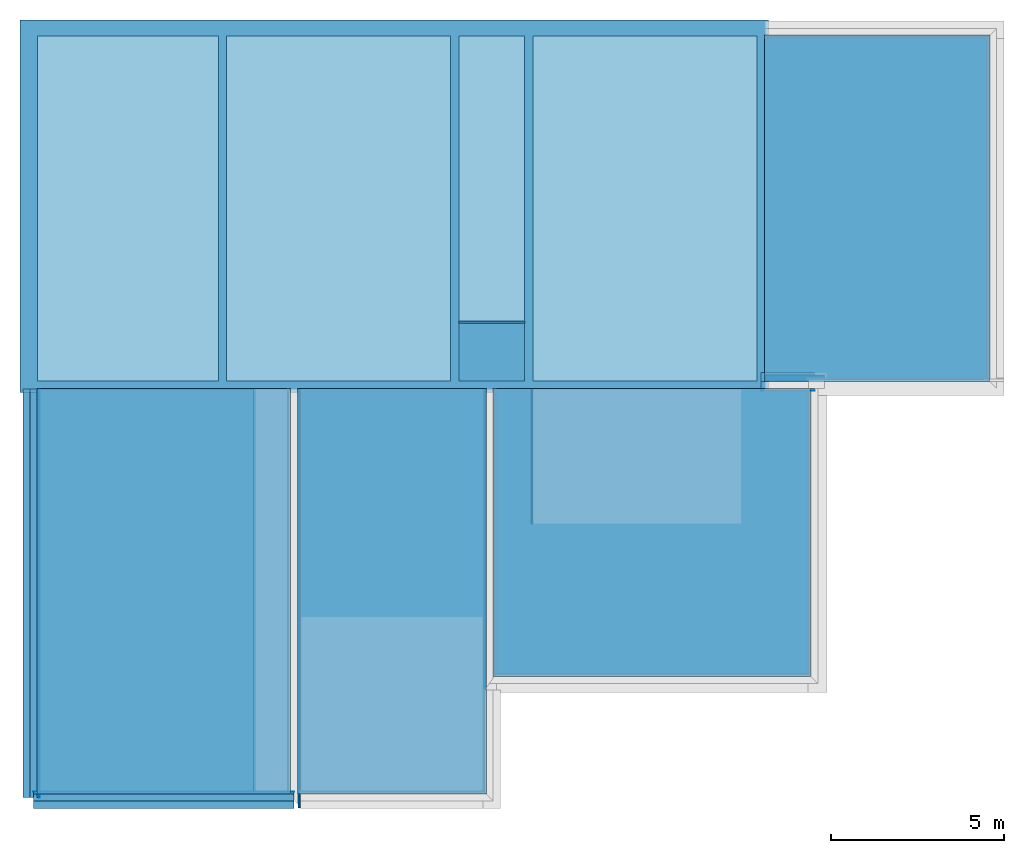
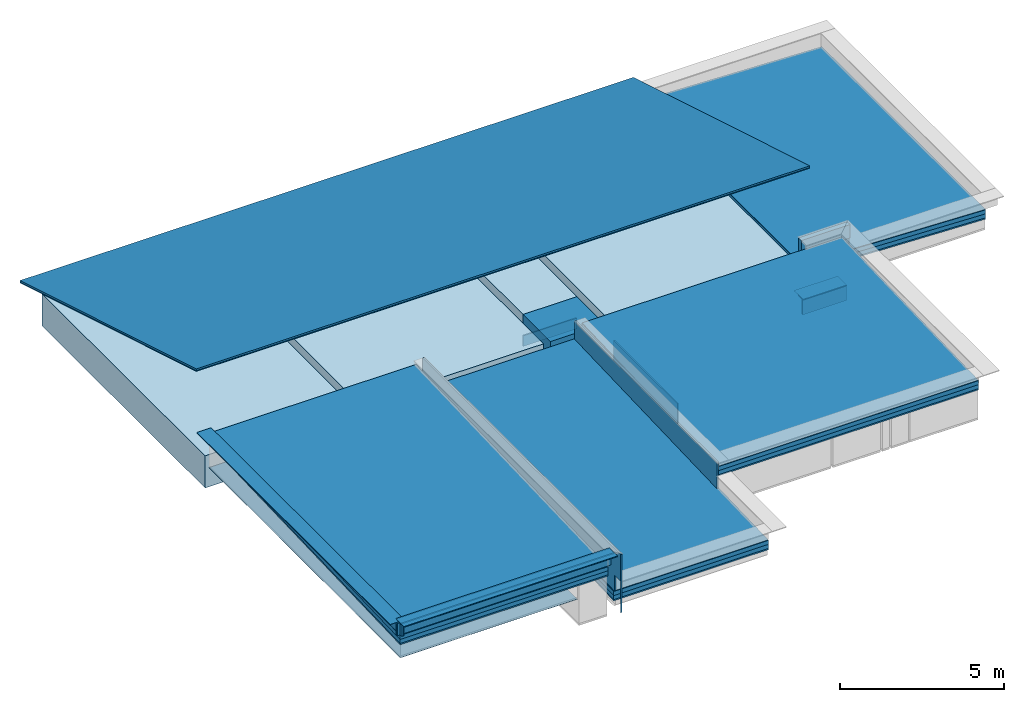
# One storey, part 1 of 13: 31 building element parts, 5 slabs, 5 walls, 9 elements without a shape of their own.
"""IFC2X3 building model written with IfcOpenShell, lengths in metres."""

from ifc_helpers import new_model, entity, si_unit, converted_unit, derived_unit, money_unit, direction, frame, origin_with_axes, place, context, subcontext, project, spatial, polyline, outline, extrude, boolean, faceted_brep, material, layer, layer_set, layer_usage, type_object, element, aggregate, save


model = new_model("IFC2X3")

# Units and contexts
model_context = context("Model", 3, precision=1e-05, world=origin_with_axes(), true_north=direction((0.0, 1.0)))
body_context = subcontext(model_context, "Body", "Model", "MODEL_VIEW")
ifc_project = project(units=[si_unit("LENGTHUNIT", "METRE"), si_unit("AREAUNIT", "SQUARE_METRE"), si_unit("VOLUMEUNIT", "CUBIC_METRE"), converted_unit("PLANEANGLEUNIT", "DEGREE", entity("IfcPlaneAngleMeasure", 0.0174532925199), si_unit("PLANEANGLEUNIT", "RADIAN"), dimensions=[0, 0, 0, 0, 0, 0, 0]), money_unit("CHF"), converted_unit("TIMEUNIT", "Year", entity("IfcTimeMeasure", 31556926.0), si_unit("TIMEUNIT", "SECOND"), dimensions=[0, 0, 1, 0, 0, 0, 0]), si_unit("MASSUNIT", "GRAM", prefix="KILO"), si_unit("THERMODYNAMICTEMPERATUREUNIT", "DEGREE_CELSIUS"), si_unit("LUMINOUSINTENSITYUNIT", "LUMEN"), si_unit("ENERGYUNIT", "JOULE", prefix="MEGA"), derived_unit("THERMALCONDUCTANCEUNIT", [(si_unit("POWERUNIT", "WATT"), 1), (si_unit("LENGTHUNIT", "METRE"), -1), (si_unit("THERMODYNAMICTEMPERATUREUNIT", "KELVIN"), -1)]), derived_unit("SPECIFICHEATCAPACITYUNIT", [(si_unit("ENERGYUNIT", "JOULE"), 1), (si_unit("MASSUNIT", "GRAM", prefix="KILO"), -1), (si_unit("THERMODYNAMICTEMPERATUREUNIT", "KELVIN"), -1)]), derived_unit("MASSDENSITYUNIT", [(si_unit("MASSUNIT", "GRAM", prefix="KILO"), 1), (si_unit("VOLUMEUNIT", "CUBIC_METRE"), -1)])], contexts=[model_context])

# Site, building, storey
site_placement = place(None, origin_with_axes())
site = spatial("IfcSite", under=ifc_project, at=site_placement, Name="Site", CompositionType="ELEMENT")
building_placement = place(site_placement, origin_with_axes())
building = spatial("IfcBuilding", under=site, at=building_placement, Name="Bâtiment", CompositionType="ELEMENT")
storey_placement = place(building_placement, frame((0.0, 0.0, 3.0), z_axis=(0.0, 0.0, 1.0), x_axis=(1.0, 0.0, 0.0)))
storey = spatial("IfcBuildingStorey", under=building, at=storey_placement, Name="Toitures", CompositionType="ELEMENT", Elevation=3.0)

# Slabs
ifc_material_1 = material(Name="Isolation - Laine de verre")
ifc_layer_1 = layer(ifc_material_1, 0.14, ventilated="UNKNOWN")
ifc_layer_2 = layer(ifc_material_1, 0.14, ventilated="UNKNOWN")
ifc_material_2 = material(Name="Vide faux plafond")
ifc_layer_3 = layer(ifc_material_2, 0.85, ventilated="UNKNOWN")
ifc_material_3 = material(Name="Aluminium")
ifc_layer_4 = layer(ifc_material_3, 0.06, ventilated="UNKNOWN")
ifc_material_4 = material(Name="Plaque fibre-gypse")
ifc_layer_5 = layer(ifc_material_4, 0.01, ventilated="UNKNOWN")
ifc_layer_set_1 = layer_set([ifc_layer_1, ifc_layer_2, ifc_layer_3, ifc_layer_4, ifc_layer_5], Name="Plafond Dgt Dortoir")
ifc_layer_usage_1 = layer_usage(ifc_layer_set_1, "AXIS3", "NEGATIVE", 1.2)
slab_type_1 = type_object("IfcSlabType", Name="Plafond Dgt Dortoir 1200", PredefinedType="FLOOR")
slab_1_placement = place(storey_placement, frame((16.7394697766, 15.12, 0.8), z_axis=(0.0, 0.0, 1.0), x_axis=(1.0, 0.0, 0.0)))
element("IfcSlab", 1, at=slab_1_placement, inside=storey, type_object=slab_type_1, material=ifc_layer_usage_1, Name="Plafond suspendu 600x600", PredefinedType="FLOOR", context=body_context, shape_type="SweptSolid", body=[
    extrude(outline(polyline([(0.0, 0.0), (6.48, 0.0), (6.48, 9.98012566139), (0.0, 9.98012566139), (0.0, 0.0)])), frame((0.0, 0.0, -1.2), z_axis=(0.0, 0.0, 1.0), x_axis=(1.0, 0.0, 0.0)), (0.0, 0.0, 1.0), 1.2),
])
ifc_layer_usage_2 = layer_usage(ifc_layer_set_1, "AXIS3", "NEGATIVE", 1.2)
slab_2_placement = place(storey_placement, frame((25.5994697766, 15.12, 0.8), z_axis=(0.0, 0.0, 1.0), x_axis=(1.0, 0.0, 0.0)))
element("IfcSlab", 2, at=slab_2_placement, inside=storey, type_object=slab_type_1, material=ifc_layer_usage_2, Name="Faux plafonds suspendus", PredefinedType="FLOOR", context=body_context, shape_type="SweptSolid", body=[
    extrude(outline(polyline([(0.0, 0.0), (6.48, 0.0), (6.48, 9.98012566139), (0.0, 9.98012566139), (0.0, 0.0)])), frame((0.0, 0.0, -1.2), z_axis=(0.0, 0.0, 1.0), x_axis=(1.0, 0.0, 0.0)), (0.0, 0.0, 1.0), 1.2),
])
ifc_layer_usage_3 = layer_usage(ifc_layer_set_1, "AXIS3", "NEGATIVE", 1.2)
slab_3_placement = place(storey_placement, frame((11.2694697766, 25.1001256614, 0.8), z_axis=(0.0, 0.0, 1.0), x_axis=(1.0, 0.0, 0.0)))
element("IfcSlab", 3, at=slab_3_placement, inside=storey, type_object=slab_type_1, material=ifc_layer_usage_3, Name="Plafond suspendu 600x600", PredefinedType="FLOOR", context=body_context, shape_type="SweptSolid", body=[
    extrude(outline(polyline([(0.0, 0.0), (0.0, -9.98012566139), (5.23, -9.98012566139), (5.23, 0.0), (0.0, 0.0)])), frame((0.0, 0.0, -1.2), z_axis=(0.0, 0.0, 1.0), x_axis=(1.0, 0.0, 0.0)), (0.0, 0.0, 1.0), 1.2),
])
ifc_layer_usage_4 = layer_usage(ifc_layer_set_1, "AXIS3", "NEGATIVE", 1.2)
slab_4_placement = place(storey_placement, frame((23.4594696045, 15.1199998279, 0.8), z_axis=(0.0, 0.0, 1.0), x_axis=(1.0, 0.0, 0.0)))
element("IfcSlab", 4, at=slab_4_placement, inside=storey, type_object=slab_type_1, material=ifc_layer_usage_4, Name="Faux plafonds suspendus", PredefinedType="FLOOR", context=body_context, shape_type="SweptSolid", body=[
    extrude(outline(polyline([(0.0, 0.0), (1.90000034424, 0.0), (1.90000034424, 1.67000017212), (0.0, 1.67000017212), (0.0, 0.0)])), frame((0.0, 0.0, -1.2), z_axis=(0.0, 0.0, 1.0), x_axis=(1.0, 0.0, 0.0)), (0.0, 0.0, 1.0), 1.2),
])
ifc_layer_6 = layer(ifc_material_1, 0.14, ventilated="UNKNOWN")
ifc_layer_7 = layer(ifc_material_1, 0.14, ventilated="UNKNOWN")
ifc_layer_8 = layer(ifc_material_2, 0.45, ventilated="UNKNOWN")
ifc_layer_9 = layer(ifc_material_3, 0.06, ventilated="UNKNOWN")
ifc_layer_10 = layer(ifc_material_4, 0.01, ventilated="UNKNOWN")
ifc_layer_set_2 = layer_set([ifc_layer_6, ifc_layer_7, ifc_layer_8, ifc_layer_9, ifc_layer_10], Name="Plafond Classe")
ifc_layer_usage_5 = layer_usage(ifc_layer_set_2, "AXIS3", "NEGATIVE", 0.8)
slab_type_2 = type_object("IfcSlabType", Name="Plafond Classe 800", PredefinedType="FLOOR")
slab_5_placement = place(storey_placement, frame((25.3594699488, 16.79, 0.8), z_axis=(0.0, 0.0, 1.0), x_axis=(1.0, 0.0, 0.0)))
element("IfcSlab", 5, at=slab_5_placement, inside=storey, type_object=slab_type_2, material=ifc_layer_usage_5, Name="Faux plafonds suspendus", PredefinedType="FLOOR", context=body_context, shape_type="SweptSolid", body=[
    extrude(outline(polyline([(0.0, 0.0), (0.0, 8.31012566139), (-1.90000034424, 8.31012566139), (-1.90000034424, 0.0), (0.0, 0.0)])), frame((0.0, 0.0, -0.8), z_axis=(0.0, 0.0, 1.0), x_axis=(1.0, 0.0, 0.0)), (0.0, 0.0, 1.0), 0.8),
])

# Walls
ifc_material_5 = material(Name="Finition int - Plaque de plâtre")
ifc_layer_11 = layer(ifc_material_5, 0.013, ventilated="UNKNOWN")
ifc_layer_12 = layer(ifc_material_1, 0.024, ventilated="UNKNOWN")
ifc_layer_13 = layer(ifc_material_5, 0.013, ventilated="UNKNOWN")
ifc_layer_set_3 = layer_set([ifc_layer_11, ifc_layer_12, ifc_layer_13], Name="Cloison 50")
ifc_layer_usage_6 = layer_usage(ifc_layer_set_3, "AXIS2", "POSITIVE", -0.05)
wall_type_1 = type_object("IfcWallType", Name="Cloison 50 50", PredefinedType="NOTDEFINED")
wall_1_placement = place(storey_placement, frame((25.5994696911, 14.8799999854, -0.5), z_axis=(0.0, 0.0, 1.0), x_axis=(0.0, -1.0, 0.0)))
element("IfcWallStandardCase", 6, at=wall_1_placement, inside=storey, type_object=wall_type_1, material=ifc_layer_usage_6, Name="MUR_EXT-006", context=body_context, shape_type="SweptSolid", body=[
    extrude(outline(polyline([(0.0, -0.05), (3.89987432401, -0.05), (3.89987432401, 0.0), (0.0, 0.0), (0.0, -0.05)])), origin_with_axes(), (0.0, 0.0, 1.0), 0.760226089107),
])
ifc_layer_usage_7 = layer_usage(ifc_layer_set_3, "AXIS2", "POSITIVE", -0.05)
wall_2_placement = place(storey_placement, frame((23.4594696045, 16.84, -0.4), z_axis=(0.0, 0.0, 1.0), x_axis=(1.0, 0.0, 0.0)))
element("IfcWallStandardCase", 7, at=wall_2_placement, inside=storey, type_object=wall_type_1, material=ifc_layer_usage_7, Name="MUR_EXT-006", context=body_context, shape_type="SweptSolid", body=[
    extrude(outline(polyline([(0.0, -0.05), (1.90000034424, -0.05), (1.90000034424, 0.0), (0.0, 0.0), (0.0, -0.05)])), origin_with_axes(), (0.0, 0.0, 1.0), 0.4),
])
ifc_material_6 = material(Name="Finition int - Enduit minéral")
wall_type_2 = type_object("IfcWallType", Name="Finition int - Enduit minéral 173", PredefinedType="NOTDEFINED")
wall_3_placement = place(storey_placement, frame((32.3194697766, 15.2931256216, -0.21), z_axis=(0.0, 0.0, 1.0), x_axis=(1.0, 0.0, 0.0)))
element("IfcWall", 8, at=wall_3_placement, inside=storey, type_object=wall_type_2, material=ifc_material_6, Name="MUR_EXT-007", context=body_context, shape_type="CSG", body=[
    boolean("DIFFERENCE", extrude(outline(polyline([(0.0, -0.173), (1.72, -0.173), (1.72, 0.0), (0.0, 0.0), (0.0, -0.173)])), origin_with_axes(), (0.0, 0.0, 1.0), 1.67500000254), faceted_brep([(0.0, 0.0, 0.811832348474), (1.72, 0.0, 0.751632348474), (1.72, 0.0, 0.0), (0.0, 0.0, 0.0), (1.72, -0.114999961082, 0.751632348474), (0.0, -0.173, 0.811832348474), (1.235, -0.173, 0.768607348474), (1.235, -0.114999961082, 0.768607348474), (1.72, -0.114999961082, 1.175), (1.72, -0.173, 1.17500000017), (1.72, -0.173, 0.0), (0.0, -0.173, 0.0), (1.25500000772, -0.173, 1.175), (1.25500000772, -0.173, 1.09036033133), (1.235, -0.173, 1.09036033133), (1.235, -0.114999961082, 1.09036033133), (1.25500000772, -0.114999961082, 1.09036033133), (1.25500000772, -0.114999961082, 1.175)], [[[0, 1, 2, 3]], [[4, 1, 0, 5, 6, 7]], [[8, 9, 10, 2, 1, 4]], [[10, 11, 3, 2]], [[5, 0, 3, 11]], [[6, 5, 11, 10, 9, 12, 13, 14]], [[6, 14, 15, 7]], [[8, 4, 7, 15, 16, 17]], [[9, 8, 17, 12]], [[13, 12, 17, 16]], [[14, 13, 16, 15]]])),
])
wall_type_3 = type_object("IfcWallType", Name="Finition int - Enduit minéral 55", PredefinedType="NOTDEFINED")
wall_4_placement = place(storey_placement, frame((24.1744697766, 6.17012566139, -0.21), z_axis=(0.0, 0.0, 1.0), x_axis=(0.0, 1.0, 0.0)))
element("IfcWall", 9, at=wall_4_placement, inside=storey, type_object=wall_type_3, material=ifc_material_6, Name="MUR_EXT-007", context=body_context, shape_type="CSG", body=[
    boolean("DIFFERENCE", extrude(outline(polyline([(0.0, -0.055), (8.70987434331, -0.055), (8.70987434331, 0.0), (0.0, 0.0), (0.0, -0.055)])), origin_with_axes(), (0.0, 0.0, 1.0), 1.67500000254), faceted_brep([(8.70987434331, 0.0, 0.994526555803), (8.70987434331, -0.055, 0.994526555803), (8.70987434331, -0.055, 0.0), (8.70987434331, 0.0, 0.0), (0.0, -0.055, 0.689680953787), (0.0, 0.0, 0.689680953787), (0.0, -0.055, 0.0), (0.0, 0.0, 0.0)], [[[0, 1, 2, 3]], [[4, 1, 0, 5]], [[1, 4, 6, 2]], [[2, 6, 7, 3]], [[5, 0, 3, 7]], [[4, 5, 7, 6]]])),
])
wall_5_placement = place(storey_placement, frame((18.8644698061, 2.77016550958, -0.21), z_axis=(0.0, 0.0, 1.0), x_axis=(0.0, 1.0, 0.0)))
element("IfcWall", 10, at=wall_5_placement, inside=storey, type_object=wall_type_3, material=ifc_material_6, Name="MUR_EXT-007", context=body_context, shape_type="CSG", body=[
    boolean("DIFFERENCE", extrude(outline(polyline([(0.0, 0.0), (12.1098344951, 0.0), (12.1098344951, 0.055), (0.0, 0.055), (0.0, 0.0)])), origin_with_axes(), (0.0, 0.0, 1.0), 2.17500000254), faceted_brep([(12.1098344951, 0.055, 0.994526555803), (12.1098344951, 0.0, 0.994526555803), (12.1098344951, 0.0, 0.0), (12.1098344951, 0.055, 0.0), (0.39, 0.0, 0.584332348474), (0.39, 0.055, 0.584332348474), (0.01, 0.0, 1.17), (0.01, 0.0, 0.0), (0.39, 0.0, 1.17), (0.01, 0.055, 0.0), (0.01, 0.055, 1.17), (0.39, 0.055, 1.17)], [[[0, 1, 2, 3]], [[4, 1, 0, 5]], [[6, 7, 2, 1, 4, 8]], [[7, 9, 3, 2]], [[5, 0, 3, 9, 10, 11]], [[8, 4, 5, 11]], [[7, 6, 10, 9]], [[6, 8, 11, 10]]])),
])

# Roof, building element parts
roof_1_placement = place(storey_placement, frame((11.2494697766, 3.16016550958, 1.00410579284), z_axis=(0.0, 0.0, 1.0), x_axis=(1.0, 0.0, 0.0)))
roof_1 = element("IfcRoof", 11, at=roof_1_placement, inside=storey, Name="TOIT-001", ShapeType="NOTDEFINED")
ifc_material_7 = material(Name="Acier inoxydable")
building_element_part_1_placement = place(roof_1_placement, origin_with_axes())
building_element_part_1 = element("IfcBuildingElementPart", 12, at=building_element_part_1_placement, material=ifc_material_7, Name="Acier inoxydable", context=body_context, shape_type="SweptSolid", body=[
    extrude(outline(polyline([(7.34, 0.0), (7.34, 11.7470229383), (0.0, 11.7470229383), (0.0, 0.0), (7.34, 0.0)])), frame((0.0, 0.0, 0.0), z_axis=(0.0, -0.0349785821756, 0.999388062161), x_axis=(1.0, 0.0, 0.0)), (0.0, 0.0349785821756, 0.999388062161), 0.0500306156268),
])
ifc_material_8 = material(Name="Isolation - Polyuréthane (extérieur)")
building_element_part_2_placement = place(roof_1_placement, origin_with_axes())
building_element_part_2 = element("IfcBuildingElementPart", 13, at=building_element_part_2_placement, material=ifc_material_8, Name="Isolation - Polyuréthane (extérieur)", context=body_context, shape_type="SweptSolid", body=[
    extrude(outline(polyline([(7.34, 0.0), (7.34, 11.7470229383), (0.0, 11.7470229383), (0.0, 0.0), (7.34, 0.0)])), frame((0.0, 0.0, 0.0500306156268), z_axis=(0.0, -0.0349785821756, 0.999388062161), x_axis=(1.0, 0.0, 0.0)), (0.0, 0.0349785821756, 0.999388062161), 0.150091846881),
])
building_element_part_3_placement = place(roof_1_placement, origin_with_axes())
building_element_part_3 = element("IfcBuildingElementPart", 14, at=building_element_part_3_placement, material=ifc_material_8, Name="Isolation - Polyuréthane (extérieur)", context=body_context, shape_type="SweptSolid", body=[
    extrude(outline(polyline([(7.34, 0.0), (7.34, 11.7470229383), (0.0, 11.7470229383), (0.0, 0.0), (7.34, 0.0)])), frame((0.0, 0.0, 0.200122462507), z_axis=(0.0, -0.0349785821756, 0.999388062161), x_axis=(1.0, 0.0, 0.0)), (0.0, 0.0349785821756, 0.999388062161), 0.150091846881),
])
ifc_material_9 = material(Name="Etanchéité")
building_element_part_4_placement = place(roof_1_placement, origin_with_axes())
building_element_part_4 = element("IfcBuildingElementPart", 15, at=building_element_part_4_placement, material=ifc_material_9, Name="Etanchéité", context=body_context, shape_type="SweptSolid", body=[
    extrude(outline(polyline([(7.34, 0.0), (7.34, 11.7470229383), (0.0, 11.7470229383), (0.0, 0.0), (7.34, 0.0)])), frame((0.0, 0.0, 0.350214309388), z_axis=(0.0, -0.0349785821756, 0.999388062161), x_axis=(1.0, 0.0, 0.0)), (0.0, 0.0349785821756, 0.999388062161), 0.0200122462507),
])
aggregate(roof_1, [building_element_part_1, building_element_part_2, building_element_part_3, building_element_part_4])

roof_2_placement = place(storey_placement, frame((24.4494697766, 3.16016550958, 0.504105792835), z_axis=(0.0, 0.0, 1.0), x_axis=(1.0, 0.0, 0.0)))
roof_2 = element("IfcRoof", 16, at=roof_2_placement, inside=storey, Name="TOIT-001", ShapeType="NOTDEFINED")
building_element_part_5_placement = place(roof_2_placement, origin_with_axes())
building_element_part_5 = element("IfcBuildingElementPart", 17, at=building_element_part_5_placement, material=ifc_material_7, Name="Acier inoxydable", context=body_context, shape_type="SweptSolid", body=[
    extrude(outline(polyline([(9.18, 3.40204199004), (9.18, 11.7470229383), (0.0, 11.7470229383), (0.0, 3.40204199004), (9.18, 3.40204199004)])), frame((0.0, 0.0, 0.0), z_axis=(0.0, -0.0349785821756, 0.999388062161), x_axis=(1.0, 0.0, 0.0)), (0.0, 0.0349785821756, 0.999388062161), 0.0500306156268),
])
building_element_part_6_placement = place(roof_2_placement, origin_with_axes())
building_element_part_6 = element("IfcBuildingElementPart", 18, at=building_element_part_6_placement, material=ifc_material_8, Name="Isolation - Polyuréthane (extérieur)", context=body_context, shape_type="SweptSolid", body=[
    extrude(outline(polyline([(9.18, 3.40204199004), (9.18, 11.7470229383), (0.0, 11.7470229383), (0.0, 3.40204199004), (9.18, 3.40204199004)])), frame((0.0, 0.0, 0.0500306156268), z_axis=(0.0, -0.0349785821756, 0.999388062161), x_axis=(1.0, 0.0, 0.0)), (0.0, 0.0349785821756, 0.999388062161), 0.150091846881),
])
building_element_part_7_placement = place(roof_2_placement, origin_with_axes())
building_element_part_7 = element("IfcBuildingElementPart", 19, at=building_element_part_7_placement, material=ifc_material_8, Name="Isolation - Polyuréthane (extérieur)", context=body_context, shape_type="SweptSolid", body=[
    extrude(outline(polyline([(9.18, 3.40204199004), (9.18, 11.7470229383), (0.0, 11.7470229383), (0.0, 3.40204199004), (9.18, 3.40204199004)])), frame((0.0, 0.0, 0.200122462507), z_axis=(0.0, -0.0349785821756, 0.999388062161), x_axis=(1.0, 0.0, 0.0)), (0.0, 0.0349785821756, 0.999388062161), 0.150091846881),
])
building_element_part_8_placement = place(roof_2_placement, origin_with_axes())
building_element_part_8 = element("IfcBuildingElementPart", 20, at=building_element_part_8_placement, material=ifc_material_9, Name="Etanchéité", context=body_context, shape_type="SweptSolid", body=[
    extrude(outline(polyline([(9.18, 3.40204199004), (9.18, 11.7470229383), (0.0, 11.7470229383), (0.0, 3.40204199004), (9.18, 3.40204199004)])), frame((0.0, 0.0, 0.350214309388), z_axis=(0.0, -0.0349785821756, 0.999388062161), x_axis=(1.0, 0.0, 0.0)), (0.0, 0.0349785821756, 0.999388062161), 0.0200122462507),
])
aggregate(roof_2, [building_element_part_5, building_element_part_6, building_element_part_7, building_element_part_8])

roof_3_placement = place(storey_placement, frame((18.7894697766, 3.16016550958, 0.00410579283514), z_axis=(0.0, 0.0, 1.0), x_axis=(1.0, 0.0, 0.0)))
roof_3 = element("IfcRoof", 21, at=roof_3_placement, inside=storey, Name="TOIT-001", ShapeType="NOTDEFINED")
building_element_part_9_placement = place(roof_3_placement, origin_with_axes())
building_element_part_9 = element("IfcBuildingElementPart", 22, at=building_element_part_9_placement, material=ifc_material_7, Name="Acier inoxydable", context=body_context, shape_type="SweptSolid", body=[
    extrude(outline(polyline([(5.46, 0.0), (5.46, 11.7470229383), (0.0, 11.7470229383), (0.0, 0.0), (5.46, 0.0)])), frame((0.0, 0.0, 0.0), z_axis=(0.0, -0.0349785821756, 0.999388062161), x_axis=(1.0, 0.0, 0.0)), (0.0, 0.0349785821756, 0.999388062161), 0.0500306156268),
])
building_element_part_10_placement = place(roof_3_placement, origin_with_axes())
building_element_part_10 = element("IfcBuildingElementPart", 23, at=building_element_part_10_placement, material=ifc_material_8, Name="Isolation - Polyuréthane (extérieur)", context=body_context, shape_type="SweptSolid", body=[
    extrude(outline(polyline([(5.46, 0.0), (5.46, 11.7470229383), (0.0, 11.7470229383), (0.0, 0.0), (5.46, 0.0)])), frame((0.0, 0.0, 0.0500306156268), z_axis=(0.0, -0.0349785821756, 0.999388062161), x_axis=(1.0, 0.0, 0.0)), (0.0, 0.0349785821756, 0.999388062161), 0.150091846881),
])
building_element_part_11_placement = place(roof_3_placement, origin_with_axes())
building_element_part_11 = element("IfcBuildingElementPart", 24, at=building_element_part_11_placement, material=ifc_material_8, Name="Isolation - Polyuréthane (extérieur)", context=body_context, shape_type="SweptSolid", body=[
    extrude(outline(polyline([(5.46, 0.0), (5.46, 11.7470229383), (0.0, 11.7470229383), (0.0, 0.0), (5.46, 0.0)])), frame((0.0, 0.0, 0.200122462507), z_axis=(0.0, -0.0349785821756, 0.999388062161), x_axis=(1.0, 0.0, 0.0)), (0.0, 0.0349785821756, 0.999388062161), 0.150091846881),
])
building_element_part_12_placement = place(roof_3_placement, origin_with_axes())
building_element_part_12 = element("IfcBuildingElementPart", 25, at=building_element_part_12_placement, material=ifc_material_9, Name="Etanchéité", context=body_context, shape_type="SweptSolid", body=[
    extrude(outline(polyline([(5.46, 0.0), (5.46, 11.7470229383), (0.0, 11.7470229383), (0.0, 0.0), (5.46, 0.0)])), frame((0.0, 0.0, 0.350214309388), z_axis=(0.0, -0.0349785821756, 0.999388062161), x_axis=(1.0, 0.0, 0.0)), (0.0, 0.0349785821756, 0.999388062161), 0.0200122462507),
])
aggregate(roof_3, [building_element_part_9, building_element_part_10, building_element_part_11, building_element_part_12])

roof_4_placement = place(storey_placement, frame((38.8194697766, 25.1201256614, 0.00410579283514), z_axis=(0.0, 0.0, 1.0), x_axis=(0.0, -1.0, 0.0)))
roof_4 = element("IfcRoof", 26, at=roof_4_placement, inside=storey, Name="TOIT-001", ShapeType="NOTDEFINED")
building_element_part_13_placement = place(roof_4_placement, origin_with_axes())
building_element_part_13 = element("IfcBuildingElementPart", 27, at=building_element_part_13_placement, material=ifc_material_7, Name="Acier inoxydable", context=body_context, shape_type="SweptSolid", body=[
    extrude(outline(polyline([(10.0201256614, 0.0), (0.0, 0.0), (0.0, -6.52399227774), (10.0201256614, -6.52399227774), (10.0201256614, 0.0)])), frame((0.0, 0.0, 0.0), z_axis=(0.0, 0.0349785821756, 0.999388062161), x_axis=(1.0, 0.0, 0.0)), (0.0, -0.0349785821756, 0.999388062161), 0.0500306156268),
])
building_element_part_14_placement = place(roof_4_placement, origin_with_axes())
building_element_part_14 = element("IfcBuildingElementPart", 28, at=building_element_part_14_placement, material=ifc_material_8, Name="Isolation - Polyuréthane (extérieur)", context=body_context, shape_type="SweptSolid", body=[
    extrude(outline(polyline([(10.0201256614, 0.0), (0.0, 0.0), (0.0, -6.52399227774), (10.0201256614, -6.52399227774), (10.0201256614, 0.0)])), frame((0.0, 0.0, 0.0500306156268), z_axis=(0.0, 0.0349785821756, 0.999388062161), x_axis=(1.0, 0.0, 0.0)), (0.0, -0.0349785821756, 0.999388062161), 0.150091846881),
])
building_element_part_15_placement = place(roof_4_placement, origin_with_axes())
building_element_part_15 = element("IfcBuildingElementPart", 29, at=building_element_part_15_placement, material=ifc_material_8, Name="Isolation - Polyuréthane (extérieur)", context=body_context, shape_type="SweptSolid", body=[
    extrude(outline(polyline([(10.0201256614, 0.0), (0.0, 0.0), (0.0, -6.52399227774), (10.0201256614, -6.52399227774), (10.0201256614, 0.0)])), frame((0.0, 0.0, 0.200122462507), z_axis=(0.0, 0.0349785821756, 0.999388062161), x_axis=(1.0, 0.0, 0.0)), (0.0, -0.0349785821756, 0.999388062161), 0.150091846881),
])
building_element_part_16_placement = place(roof_4_placement, origin_with_axes())
building_element_part_16 = element("IfcBuildingElementPart", 30, at=building_element_part_16_placement, material=ifc_material_9, Name="Etanchéité", context=body_context, shape_type="SweptSolid", body=[
    extrude(outline(polyline([(10.0201256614, 0.0), (0.0, 0.0), (0.0, -6.52399227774), (10.0201256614, -6.52399227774), (10.0201256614, 0.0)])), frame((0.0, 0.0, 0.350214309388), z_axis=(0.0, 0.0349785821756, 0.999388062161), x_axis=(1.0, 0.0, 0.0)), (0.0, -0.0349785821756, 0.999388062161), 0.0200122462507),
])
aggregate(roof_4, [building_element_part_13, building_element_part_14, building_element_part_15, building_element_part_16])

roof_5_placement = place(storey_placement, frame((10.8594697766, 25.5101256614, 1.12117566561), z_axis=(0.0, 0.0, 1.0), x_axis=(1.0, 0.0, 0.0)))
roof_5 = element("IfcRoof", 31, at=roof_5_placement, inside=storey, Name="TOIT-002", ShapeType="NOTDEFINED")
ifc_material_10 = material(Name="Bois OSB")
building_element_part_17_placement = place(roof_5_placement, origin_with_axes())
building_element_part_17 = element("IfcBuildingElementPart", 32, at=building_element_part_17_placement, material=ifc_material_10, Name="Bois OSB", context=body_context, shape_type="SweptSolid", body=[
    extrude(outline(polyline([(-0.1, 0.0522015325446), (-0.1, -11.2025800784), (21.56, -11.2025800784), (21.56, 0.0522015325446), (-0.1, 0.0522015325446)])), frame((0.0, 0.0, 0.0), z_axis=(0.0, 0.287347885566, 0.957826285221), x_axis=(1.0, 0.0, 0.0)), (0.0, -0.287347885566, 0.957826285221), 0.0271447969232),
])
ifc_material_11 = material(Name="Panneaux sandwich")
building_element_part_18_placement = place(roof_5_placement, origin_with_axes())
building_element_part_18 = element("IfcBuildingElementPart", 33, at=building_element_part_18_placement, material=ifc_material_11, Name="Panneaux sandwich", context=body_context, shape_type="SweptSolid", body=[
    extrude(outline(polyline([(-0.1, 0.0522015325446), (-0.1, -11.2025800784), (21.56, -11.2025800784), (21.56, 0.0522015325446), (-0.1, 0.0522015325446)])), frame((0.0, 0.0, 0.0271447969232), z_axis=(0.0, 0.287347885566, 0.957826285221), x_axis=(1.0, 0.0, 0.0)), (0.0, -0.287347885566, 0.957826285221), 0.0626418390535),
])
aggregate(roof_5, [building_element_part_17, building_element_part_18])

# Slab, building element part
slab_type_3 = type_object("IfcSlabType", Name="Plafond dalles minérale 2570", PredefinedType="FLOOR")
slab_6_placement = place(storey_placement, frame((11.2694697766, 14.88, 3.07), z_axis=(0.0, 0.0, 1.0), x_axis=(1.0, 0.0, 0.0)))
slab_6 = element("IfcSlab", 34, at=slab_6_placement, inside=storey, type_object=slab_type_3, Name="Plafond acoustique suspendu", PredefinedType="FLOOR")
building_element_part_19_placement = place(slab_6_placement, origin_with_axes())
building_element_part_19 = element("IfcBuildingElementPart", 35, at=building_element_part_19_placement, material=ifc_material_4, Name="Plaque fibre-gypse", context=body_context, shape_type="CSG", body=[
    boolean("DIFFERENCE", extrude(outline(polyline([(0.0, 0.0), (0.0, -11.6998344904), (6.25, -11.6998344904), (6.25, 0.0), (0.0, 0.0)])), frame((0.0, 0.0, -2.57), z_axis=(0.0, 0.0, 1.0), x_axis=(1.0, 0.0, 0.0)), (0.0, 0.0, 1.0), 0.01), faceted_brep([(6.25, -11.6998344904, -2.06519420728), (6.25, 0.0, -1.65570000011), (6.25, 0.0, 0.0), (6.25, -11.6998344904, 0.0), (0.0549999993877, 0.0, -1.65570000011), (0.0, -11.6998344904, -2.06519420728), (0.0, -0.969704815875, -1.68963966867), (0.0549999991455, -0.969704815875, -1.68963966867), (0.0549999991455, 0.0, -1.68963966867), (0.0, 0.0, -1.68963966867), (0.0, 0.0, 0.0), (0.0, -11.6998344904, 0.0)], [[[0, 1, 2, 3]], [[4, 1, 0, 5, 6, 7]], [[8, 9, 10, 2, 1, 4]], [[3, 2, 10, 11]], [[5, 0, 3, 11]], [[6, 5, 11, 10, 9]], [[9, 8, 7, 6]], [[8, 4, 7]]])),
])
aggregate(slab_6, [building_element_part_19])

# Wall, building element parts
wall_type_4 = type_object("IfcWallType", Name="Couvertine mur bardage 555 x 590", PredefinedType="NOTDEFINED")
wall_6_placement = place(storey_placement, frame((33.7494697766, 15.0031256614, -0.5), z_axis=(0.0, 0.0, 1.0), x_axis=(-1.0, 0.0, 0.0)))
wall_6 = element("IfcWall", 36, at=wall_6_placement, inside=storey, type_object=wall_type_4, Name="MUR_EXT-013")
building_element_part_20_placement = place(wall_6_placement, origin_with_axes())
building_element_part_20 = element("IfcBuildingElementPart", 37, at=building_element_part_20_placement, material=ifc_material_9, Name="Etanchéité", context=body_context, shape_type="SweptSolid", body=[
    extrude(outline(polyline([(-0.175, -0.589639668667), (-0.165000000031, -0.589639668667), (-0.165000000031, -0.0549999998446), (-0.165000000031, -0.005), (-0.175, -0.005), (-0.175, -0.589639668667)])), frame((0.0, 0.0, 0.0), z_axis=(-1.0, 0.0, 0.0), x_axis=(0.0, -1.0, 0.0)), (0.0, 0.0, -1.0), 1.55),
])
building_element_part_21_placement = place(wall_6_placement, origin_with_axes())
building_element_part_21 = element("IfcBuildingElementPart", 38, at=building_element_part_21_placement, material=ifc_material_3, Name="Aluminium", context=body_context, shape_type="SweptSolid", body=[
    extrude(outline(polyline([(-0.195, -0.029999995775), (-0.190000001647, -0.029999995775), (-0.190000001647, -0.00499999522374), (-0.174999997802, -0.00500000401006), (-0.165000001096, -0.00500000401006), (0.0999999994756, -0.00499999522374), (0.354999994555, -0.00499999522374), (0.354999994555, -0.029999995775), (0.360000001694, -0.029999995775), (0.360000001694, 3.12924697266e-09), (-0.195, 3.12924697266e-09), (-0.195, -0.029999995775)])), frame((0.0, 0.0, 0.0), z_axis=(-1.0, 0.0, 0.0), x_axis=(0.0, -1.0, 0.0)), (0.0, 0.0, -1.0), 1.55),
])
building_element_part_22_placement = place(wall_6_placement, origin_with_axes())
building_element_part_22 = element("IfcBuildingElementPart", 39, at=building_element_part_22_placement, material=ifc_material_8, Name="Isolation - Polyuréthane (extérieur)", context=body_context, shape_type="SweptSolid", body=[
    extrude(outline(polyline([(-0.0999999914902, -0.0549999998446), (-0.165, -0.0549999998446), (-0.165, -0.589639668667), (-0.0999999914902, -0.589639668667), (-0.0999999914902, -0.0549999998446)])), frame((0.0, 0.0, 0.0), z_axis=(-1.0, 0.0, 0.0), x_axis=(0.0, -1.0, 0.0)), (0.0, 0.0, -1.0), 1.55),
])
building_element_part_23_placement = place(wall_6_placement, origin_with_axes())
building_element_part_23 = element("IfcBuildingElementPart", 40, at=building_element_part_23_placement, material=ifc_material_8, Name="Isolation - Polyuréthane (extérieur)", context=body_context, shape_type="SweptSolid", body=[
    extrude(outline(polyline([(0.1, -0.005), (-0.165, -0.005), (-0.165, -0.055), (-0.0999999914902, -0.0549999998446), (0.1, -0.055), (0.1, -0.005)])), frame((0.0, 0.0, 0.0), z_axis=(-1.0, 0.0, 0.0), x_axis=(0.0, -1.0, 0.0)), (0.0, 0.0, -1.0), 1.55),
])
aggregate(wall_6, [building_element_part_20, building_element_part_21, building_element_part_22, building_element_part_23])

# Beam, building element parts
beam_type = type_object("IfcBeamType", Name="couvertine mur iso 505 x 590", PredefinedType="BEAM")
beam_1_placement = place(storey_placement, frame((18.6894697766, 3.06016550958, 1.97), z_axis=(0.0, 0.0, 1.0), x_axis=(0.0, 1.0, 0.0)))
beam_1 = element("IfcBeam", 41, at=beam_1_placement, inside=storey, type_object=beam_type, Name="POUTRE-001", ObjectType="BEAM")
building_element_part_24_placement = place(beam_1_placement, origin_with_axes())
building_element_part_24 = element("IfcBuildingElementPart", 42, at=building_element_part_24_placement, material=ifc_material_9, Name="Etanchéité", context=body_context, shape_type="SweptSolid", body=[
    extrude(outline(polyline([(0.164999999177, -0.0549999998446), (0.164999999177, -0.589639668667), (0.174999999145, -0.589639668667), (0.174999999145, -0.005), (0.164999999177, -0.005), (0.164999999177, -0.0549999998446)])), frame((0.0, 7.54, 0.0), z_axis=(0.0, -1.0, 0.0), x_axis=(1.0, 0.0, 0.0)), (0.0, 0.0, 1.0), 7.54),
])
building_element_part_25_placement = place(beam_1_placement, origin_with_axes())
building_element_part_25 = element("IfcBuildingElementPart", 43, at=building_element_part_25_placement, material=ifc_material_3, Name="Aluminium", context=body_context, shape_type="SweptSolid", body=[
    extrude(outline(polyline([(0.194999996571, -1.56462309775e-09), (-0.31, -1.56462309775e-09), (-0.31, -0.03000000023), (-0.3049999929, -0.03000000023), (-0.3049999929, -0.0049999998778), (-0.100000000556, -0.0049999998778), (0.164999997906, -0.0049999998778), (0.175000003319, -0.0049999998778), (0.189999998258, -0.0049999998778), (0.189999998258, -0.03000000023), (0.194999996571, -0.03000000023), (0.194999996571, -1.56462309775e-09)])), frame((0.0, 7.54, 0.0), z_axis=(0.0, -1.0, 0.0), x_axis=(1.0, 0.0, 0.0)), (0.0, 0.0, 1.0), 7.54),
])
building_element_part_26_placement = place(beam_1_placement, origin_with_axes())
building_element_part_26 = element("IfcBuildingElementPart", 44, at=building_element_part_26_placement, material=ifc_material_8, Name="Isolation - Polyuréthane (extérieur)", context=body_context, shape_type="SweptSolid", body=[
    extrude(outline(polyline([(0.0999999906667, -0.589639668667), (0.164999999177, -0.589639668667), (0.164999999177, -0.0549999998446), (0.0999999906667, -0.0549999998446), (0.0999999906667, -0.589639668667)])), frame((0.0, 7.54, 0.0), z_axis=(0.0, -1.0, 0.0), x_axis=(1.0, 0.0, 0.0)), (0.0, 0.0, 1.0), 7.54),
])
building_element_part_27_placement = place(beam_1_placement, origin_with_axes())
building_element_part_27 = element("IfcBuildingElementPart", 45, at=building_element_part_27_placement, material=ifc_material_8, Name="Isolation - Polyuréthane (extérieur)", context=body_context, shape_type="SweptSolid", body=[
    extrude(outline(polyline([(-0.1, -0.005), (-0.1, -0.055), (0.0999999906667, -0.0549999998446), (0.165, -0.055), (0.165, -0.005), (-0.1, -0.005)])), frame((0.0, 7.54, 0.0), z_axis=(0.0, -1.0, 0.0), x_axis=(1.0, 0.0, 0.0)), (0.0, 0.0, 1.0), 7.54),
])
aggregate(beam_1, [building_element_part_24, building_element_part_25, building_element_part_26, building_element_part_27])

beam_2_placement = place(storey_placement, frame((11.1494697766, 3.06016550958, 1.97), z_axis=(0.0, 0.0, 1.0), x_axis=(1.0, 0.0, 0.0)))
beam_2 = element("IfcBeam", 46, at=beam_2_placement, inside=storey, type_object=beam_type, Name="POUTRE-002", ObjectType="BEAM")
building_element_part_28_placement = place(beam_2_placement, origin_with_axes())
building_element_part_28 = element("IfcBuildingElementPart", 47, at=building_element_part_28_placement, material=ifc_material_9, Name="Etanchéité", context=body_context, shape_type="SweptSolid", body=[
    extrude(outline(polyline([(0.164999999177, -0.0549999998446), (0.164999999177, -0.589639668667), (0.174999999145, -0.589639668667), (0.174999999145, -0.005), (0.164999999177, -0.005), (0.164999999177, -0.0549999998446)])), frame((0.0, 11.8198344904, 0.0), z_axis=(0.0, -1.0, 0.0), x_axis=(1.0, 0.0, 0.0)), (0.0, 0.0, 1.0), 11.8198344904),
])
building_element_part_29_placement = place(beam_2_placement, origin_with_axes())
building_element_part_29 = element("IfcBuildingElementPart", 48, at=building_element_part_29_placement, material=ifc_material_3, Name="Aluminium", context=body_context, shape_type="SweptSolid", body=[
    extrude(outline(polyline([(0.194999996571, -1.56462309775e-09), (-0.31, -1.56462309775e-09), (-0.31, -0.03000000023), (-0.3049999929, -0.03000000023), (-0.3049999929, -0.0049999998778), (-0.100000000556, -0.0049999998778), (0.164999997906, -0.0049999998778), (0.175000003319, -0.0049999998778), (0.189999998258, -0.0049999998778), (0.189999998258, -0.03000000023), (0.194999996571, -0.03000000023), (0.194999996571, -1.56462309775e-09)])), frame((0.0, 11.8198344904, 0.0), z_axis=(0.0, -1.0, 0.0), x_axis=(1.0, 0.0, 0.0)), (0.0, 0.0, 1.0), 11.8198344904),
])
building_element_part_30_placement = place(beam_2_placement, origin_with_axes())
building_element_part_30 = element("IfcBuildingElementPart", 49, at=building_element_part_30_placement, material=ifc_material_8, Name="Isolation - Polyuréthane (extérieur)", context=body_context, shape_type="SweptSolid", body=[
    extrude(outline(polyline([(0.0999999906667, -0.589639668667), (0.164999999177, -0.589639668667), (0.164999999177, -0.0549999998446), (0.0999999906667, -0.0549999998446), (0.0999999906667, -0.589639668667)])), frame((0.0, 11.8198344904, 0.0), z_axis=(0.0, -1.0, 0.0), x_axis=(1.0, 0.0, 0.0)), (0.0, 0.0, 1.0), 11.8198344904),
])
building_element_part_31_placement = place(beam_2_placement, origin_with_axes())
building_element_part_31 = element("IfcBuildingElementPart", 50, at=building_element_part_31_placement, material=ifc_material_8, Name="Isolation - Polyuréthane (extérieur)", context=body_context, shape_type="SweptSolid", body=[
    extrude(outline(polyline([(-0.1, -0.005), (-0.1, -0.055), (0.0999999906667, -0.0549999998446), (0.165, -0.055), (0.165, -0.005), (-0.1, -0.005)])), frame((0.0, 11.8198344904, 0.0), z_axis=(0.0, -1.0, 0.0), x_axis=(1.0, 0.0, 0.0)), (0.0, 0.0, 1.0), 11.8198344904),
])
aggregate(beam_2, [building_element_part_28, building_element_part_29, building_element_part_30, building_element_part_31])

save(model, "model.ifc")
